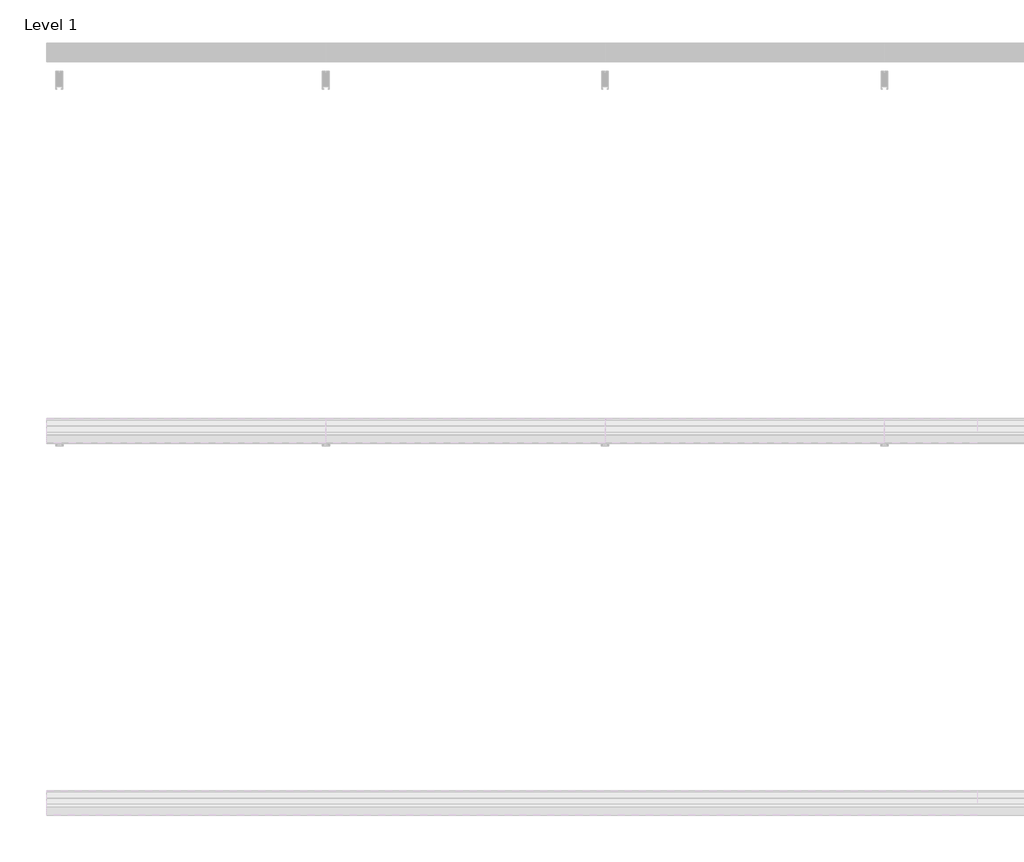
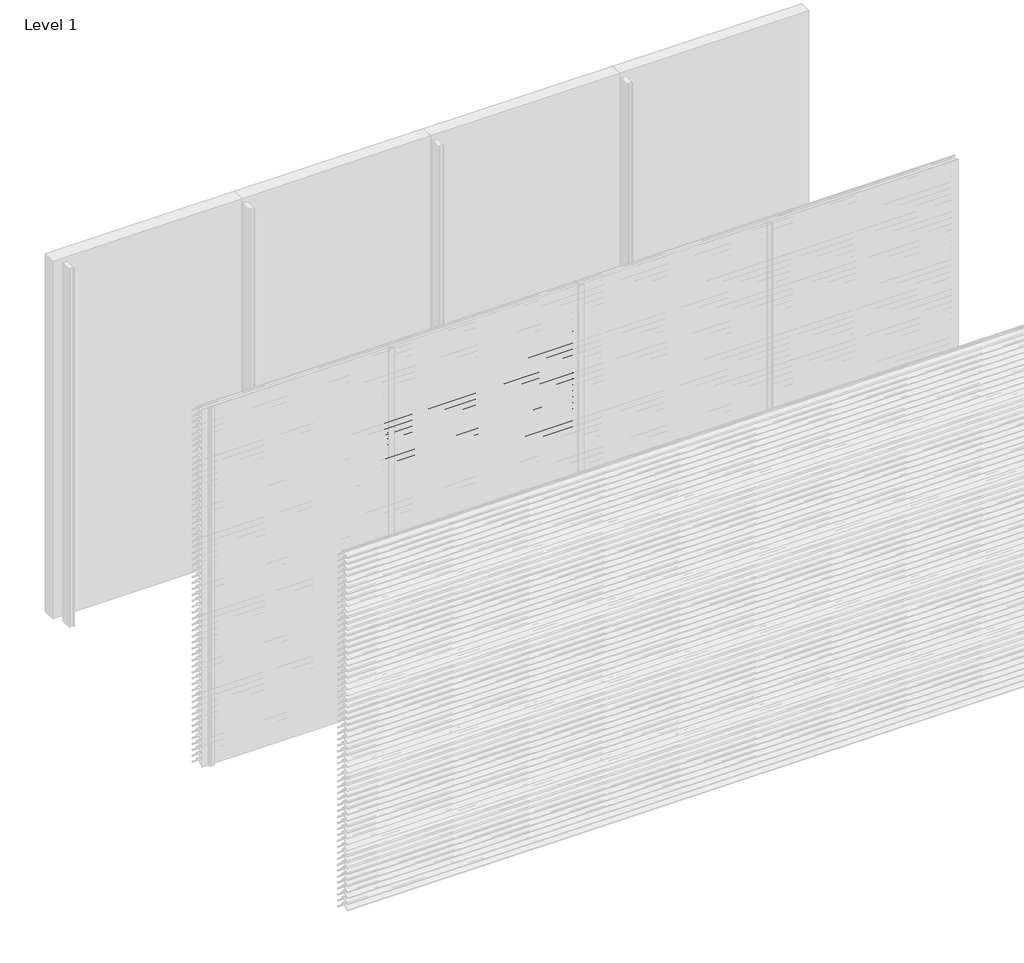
# One storey, part 96 of 173: 17 proxies.
"""IFC4 building model written with IfcOpenShell, lengths in millimetres."""

from ifc_helpers import new_model, si_unit, point, frame, frame_2d, origin, place, context, project, spatial, polyline, circle_curve, trimmed, segment, composite_curve, outline, extrude, element, save

model = new_model("IFC4")

# Units and contexts
model_context = context("Model", 3, world=origin())
ifc_project = project(units=[si_unit("LENGTHUNIT", "METRE", prefix="MILLI")], contexts=[model_context])

# Site, building, storey
site = spatial("IfcSite", under=ifc_project)
building = spatial("IfcBuilding", under=site)
storey = spatial("IfcBuildingStorey", under=building, Name="Level 1", Elevation=0.0)

# Proxies
placement = place(None, origin())
element("IfcBuildingElementProxy", 1, Name="Wall Sweeps", at=placement, inside=storey, context=model_context, shape_type="SweptSolid", body=[
    extrude(outline(composite_curve([segment(polyline([(-23998.0, 2559.1474905), (-23998.0, 2561.6227417)]), True, "CONTINUOUS"), segment(trimmed(circle_curve(frame_2d((-23951.2682172, 2516.2200208)), 65.1557103), [point((-23998.0, 2561.6227417))], [point((-23954.4014323, 2581.3003524))], False, "CARTESIAN"), True, "CONTINUOUS"), segment(polyline([(-23954.4014323, 2581.3003524), (-23934.8315836, 2581.3003524)]), True, "CONTINUOUS"), segment(trimmed(circle_curve(frame_2d((-23732.7329489, 2728.5533172)), 250.0545817), [point((-23934.8315836, 2581.3003524))], [point((-23941.4452143, 2590.8344583))], False, "CARTESIAN"), True, "CONTINUOUS"), segment(trimmed(circle_curve(frame_2d((-23953.2981792, 2585.1737835)), 13.1352966), [point((-23941.4452143, 2590.8344583))], [point((-23953.8171475, 2598.298824))], True, "CARTESIAN"), True, "CONTINUOUS"), segment(polyline([(-23953.8171475, 2598.298824), (-23953.8171475, 2600.0)]), True, "CONTINUOUS"), segment(trimmed(circle_curve(frame_2d((-23953.2981792, 2585.1737835)), 14.8352966), [point((-23953.8171475, 2600.0))], [point((-23939.9637661, 2591.6760487))], False, "CARTESIAN"), True, "CONTINUOUS"), segment(trimmed(circle_curve(frame_2d((-23732.7329489, 2728.5533172)), 248.3545817), [point((-23939.9637661, 2591.6760487))], [point((-23873.8787895, 2524.2059416))], True, "CARTESIAN"), True, "CONTINUOUS"), segment(trimmed(circle_curve(frame_2d((-23883.8147537, 2511.6649442)), 16.0), [point((-23873.8787895, 2524.2059416))], [point((-23867.8648347, 2510.4))], False, "CARTESIAN"), True, "CONTINUOUS"), segment(polyline([(-23867.8648347, 2510.4), (-23869.6712069, 2510.4)]), True, "CONTINUOUS"), segment(trimmed(circle_curve(frame_2d((-23883.8147537, 2511.6649442)), 14.2), [point((-23869.6712069, 2510.4))], [point((-23874.9518628, 2522.7594998))], True, "CARTESIAN"), True, "CONTINUOUS"), segment(trimmed(circle_curve(frame_2d((-23732.7329489, 2728.5533172)), 250.1545817), [point((-23874.9518628, 2522.7594998))], [point((-23933.7064024, 2579.6003524))], False, "CARTESIAN"), True, "CONTINUOUS"), segment(polyline([(-23933.7064024, 2579.6003524), (-23954.3602632, 2579.6003524)]), True, "CONTINUOUS"), segment(trimmed(circle_curve(frame_2d((-23951.2682172, 2516.2200208)), 63.4557103), [point((-23954.3602632, 2579.6003524))], [point((-23998.0, 2559.1474905))], True, "CARTESIAN"), True, "CONTINUOUS")], self_intersect=False)), frame((1500.0, 0.0, 0.0), z_axis=(1.0, 0.0, 0.0), x_axis=(0.0, 1.0, 0.0)), (0.0, 0.0, 1.0), 1500.0),
])
element("IfcBuildingElementProxy", 2, Name="Wall Sweeps", at=placement, inside=storey, context=model_context, shape_type="SweptSolid", body=[
    extrude(outline(composite_curve([segment(polyline([(-23998.0, 2509.1474905), (-23998.0, 2511.6227417)]), True, "CONTINUOUS"), segment(trimmed(circle_curve(frame_2d((-23951.2682172, 2466.2200208)), 65.1557103), [point((-23998.0, 2511.6227417))], [point((-23954.4014323, 2531.3003524))], False, "CARTESIAN"), True, "CONTINUOUS"), segment(polyline([(-23954.4014323, 2531.3003524), (-23934.8315836, 2531.3003524)]), True, "CONTINUOUS"), segment(trimmed(circle_curve(frame_2d((-23732.7329489, 2678.5533172)), 250.0545817), [point((-23934.8315836, 2531.3003524))], [point((-23941.4452143, 2540.8344583))], False, "CARTESIAN"), True, "CONTINUOUS"), segment(trimmed(circle_curve(frame_2d((-23953.2981792, 2535.1737835)), 13.1352966), [point((-23941.4452143, 2540.8344583))], [point((-23953.8171475, 2548.298824))], True, "CARTESIAN"), True, "CONTINUOUS"), segment(polyline([(-23953.8171475, 2548.298824), (-23953.8171475, 2550.0)]), True, "CONTINUOUS"), segment(trimmed(circle_curve(frame_2d((-23953.2981792, 2535.1737835)), 14.8352966), [point((-23953.8171475, 2550.0))], [point((-23939.9637661, 2541.6760487))], False, "CARTESIAN"), True, "CONTINUOUS"), segment(trimmed(circle_curve(frame_2d((-23732.7329489, 2678.5533172)), 248.3545817), [point((-23939.9637661, 2541.6760487))], [point((-23873.8787895, 2474.2059416))], True, "CARTESIAN"), True, "CONTINUOUS"), segment(trimmed(circle_curve(frame_2d((-23883.8147537, 2461.6649442)), 16.0), [point((-23873.8787895, 2474.2059416))], [point((-23867.8648347, 2460.4))], False, "CARTESIAN"), True, "CONTINUOUS"), segment(polyline([(-23867.8648347, 2460.4), (-23869.6712069, 2460.4)]), True, "CONTINUOUS"), segment(trimmed(circle_curve(frame_2d((-23883.8147537, 2461.6649442)), 14.2), [point((-23869.6712069, 2460.4))], [point((-23874.9518628, 2472.7594998))], True, "CARTESIAN"), True, "CONTINUOUS"), segment(trimmed(circle_curve(frame_2d((-23732.7329489, 2678.5533172)), 250.1545817), [point((-23874.9518628, 2472.7594998))], [point((-23933.7064024, 2529.6003524))], False, "CARTESIAN"), True, "CONTINUOUS"), segment(polyline([(-23933.7064024, 2529.6003524), (-23954.3602632, 2529.6003524)]), True, "CONTINUOUS"), segment(trimmed(circle_curve(frame_2d((-23951.2682172, 2466.2200208)), 63.4557103), [point((-23954.3602632, 2529.6003524))], [point((-23998.0, 2509.1474905))], True, "CARTESIAN"), True, "CONTINUOUS")], self_intersect=False)), frame((1500.0, 0.0, 0.0), z_axis=(1.0, 0.0, 0.0), x_axis=(0.0, 1.0, 0.0)), (0.0, 0.0, 1.0), 1500.0),
])
element("IfcBuildingElementProxy", 3, Name="Wall Sweeps", at=placement, inside=storey, context=model_context, shape_type="SweptSolid", body=[
    extrude(outline(composite_curve([segment(polyline([(-23998.0, 2459.1474905), (-23998.0, 2461.6227417)]), True, "CONTINUOUS"), segment(trimmed(circle_curve(frame_2d((-23951.2682172, 2416.2200208)), 65.1557103), [point((-23998.0, 2461.6227417))], [point((-23954.4014323, 2481.3003524))], False, "CARTESIAN"), True, "CONTINUOUS"), segment(polyline([(-23954.4014323, 2481.3003524), (-23934.8315836, 2481.3003524)]), True, "CONTINUOUS"), segment(trimmed(circle_curve(frame_2d((-23732.7329489, 2628.5533172)), 250.0545817), [point((-23934.8315836, 2481.3003524))], [point((-23941.4452143, 2490.8344583))], False, "CARTESIAN"), True, "CONTINUOUS"), segment(trimmed(circle_curve(frame_2d((-23953.2981792, 2485.1737835)), 13.1352966), [point((-23941.4452143, 2490.8344583))], [point((-23953.8171475, 2498.298824))], True, "CARTESIAN"), True, "CONTINUOUS"), segment(polyline([(-23953.8171475, 2498.298824), (-23953.8171475, 2500.0)]), True, "CONTINUOUS"), segment(trimmed(circle_curve(frame_2d((-23953.2981792, 2485.1737835)), 14.8352966), [point((-23953.8171475, 2500.0))], [point((-23939.9637661, 2491.6760487))], False, "CARTESIAN"), True, "CONTINUOUS"), segment(trimmed(circle_curve(frame_2d((-23732.7329489, 2628.5533172)), 248.3545817), [point((-23939.9637661, 2491.6760487))], [point((-23873.8787895, 2424.2059416))], True, "CARTESIAN"), True, "CONTINUOUS"), segment(trimmed(circle_curve(frame_2d((-23883.8147537, 2411.6649442)), 16.0), [point((-23873.8787895, 2424.2059416))], [point((-23867.8648347, 2410.4))], False, "CARTESIAN"), True, "CONTINUOUS"), segment(polyline([(-23867.8648347, 2410.4), (-23869.6712069, 2410.4)]), True, "CONTINUOUS"), segment(trimmed(circle_curve(frame_2d((-23883.8147537, 2411.6649442)), 14.2), [point((-23869.6712069, 2410.4))], [point((-23874.9518628, 2422.7594998))], True, "CARTESIAN"), True, "CONTINUOUS"), segment(trimmed(circle_curve(frame_2d((-23732.7329489, 2628.5533172)), 250.1545817), [point((-23874.9518628, 2422.7594998))], [point((-23933.7064024, 2479.6003524))], False, "CARTESIAN"), True, "CONTINUOUS"), segment(polyline([(-23933.7064024, 2479.6003524), (-23954.3602632, 2479.6003524)]), True, "CONTINUOUS"), segment(trimmed(circle_curve(frame_2d((-23951.2682172, 2416.2200208)), 63.4557103), [point((-23954.3602632, 2479.6003524))], [point((-23998.0, 2459.1474905))], True, "CARTESIAN"), True, "CONTINUOUS")], self_intersect=False)), frame((1500.0, 0.0, 0.0), z_axis=(1.0, 0.0, 0.0), x_axis=(0.0, 1.0, 0.0)), (0.0, 0.0, 1.0), 1500.0),
])
element("IfcBuildingElementProxy", 4, Name="Wall Sweeps", at=placement, inside=storey, context=model_context, shape_type="SweptSolid", body=[
    extrude(outline(composite_curve([segment(polyline([(-23998.0, 2409.1474905), (-23998.0, 2411.6227417)]), True, "CONTINUOUS"), segment(trimmed(circle_curve(frame_2d((-23951.2682172, 2366.2200208)), 65.1557103), [point((-23998.0, 2411.6227417))], [point((-23954.4014323, 2431.3003524))], False, "CARTESIAN"), True, "CONTINUOUS"), segment(polyline([(-23954.4014323, 2431.3003524), (-23934.8315836, 2431.3003524)]), True, "CONTINUOUS"), segment(trimmed(circle_curve(frame_2d((-23732.7329489, 2578.5533172)), 250.0545817), [point((-23934.8315836, 2431.3003524))], [point((-23941.4452143, 2440.8344583))], False, "CARTESIAN"), True, "CONTINUOUS"), segment(trimmed(circle_curve(frame_2d((-23953.2981792, 2435.1737835)), 13.1352966), [point((-23941.4452143, 2440.8344583))], [point((-23953.8171475, 2448.298824))], True, "CARTESIAN"), True, "CONTINUOUS"), segment(polyline([(-23953.8171475, 2448.298824), (-23953.8171475, 2450.0)]), True, "CONTINUOUS"), segment(trimmed(circle_curve(frame_2d((-23953.2981792, 2435.1737835)), 14.8352966), [point((-23953.8171475, 2450.0))], [point((-23939.9637661, 2441.6760487))], False, "CARTESIAN"), True, "CONTINUOUS"), segment(trimmed(circle_curve(frame_2d((-23732.7329489, 2578.5533172)), 248.3545817), [point((-23939.9637661, 2441.6760487))], [point((-23873.8787895, 2374.2059416))], True, "CARTESIAN"), True, "CONTINUOUS"), segment(trimmed(circle_curve(frame_2d((-23883.8147537, 2361.6649442)), 16.0), [point((-23873.8787895, 2374.2059416))], [point((-23867.8648347, 2360.4))], False, "CARTESIAN"), True, "CONTINUOUS"), segment(polyline([(-23867.8648347, 2360.4), (-23869.6712069, 2360.4)]), True, "CONTINUOUS"), segment(trimmed(circle_curve(frame_2d((-23883.8147537, 2361.6649442)), 14.2), [point((-23869.6712069, 2360.4))], [point((-23874.9518628, 2372.7594998))], True, "CARTESIAN"), True, "CONTINUOUS"), segment(trimmed(circle_curve(frame_2d((-23732.7329489, 2578.5533172)), 250.1545817), [point((-23874.9518628, 2372.7594998))], [point((-23933.7064024, 2429.6003524))], False, "CARTESIAN"), True, "CONTINUOUS"), segment(polyline([(-23933.7064024, 2429.6003524), (-23954.3602632, 2429.6003524)]), True, "CONTINUOUS"), segment(trimmed(circle_curve(frame_2d((-23951.2682172, 2366.2200208)), 63.4557103), [point((-23954.3602632, 2429.6003524))], [point((-23998.0, 2409.1474905))], True, "CARTESIAN"), True, "CONTINUOUS")], self_intersect=False)), frame((1500.0, 0.0, 0.0), z_axis=(1.0, 0.0, 0.0), x_axis=(0.0, 1.0, 0.0)), (0.0, 0.0, 1.0), 1500.0),
])
element("IfcBuildingElementProxy", 5, Name="Wall Sweeps", at=placement, inside=storey, context=model_context, shape_type="SweptSolid", body=[
    extrude(outline(composite_curve([segment(polyline([(-23998.0, 2359.1474905), (-23998.0, 2361.6227417)]), True, "CONTINUOUS"), segment(trimmed(circle_curve(frame_2d((-23951.2682172, 2316.2200208)), 65.1557103), [point((-23998.0, 2361.6227417))], [point((-23954.4014323, 2381.3003524))], False, "CARTESIAN"), True, "CONTINUOUS"), segment(polyline([(-23954.4014323, 2381.3003524), (-23934.8315836, 2381.3003524)]), True, "CONTINUOUS"), segment(trimmed(circle_curve(frame_2d((-23732.7329489, 2528.5533172)), 250.0545817), [point((-23934.8315836, 2381.3003524))], [point((-23941.4452143, 2390.8344583))], False, "CARTESIAN"), True, "CONTINUOUS"), segment(trimmed(circle_curve(frame_2d((-23953.2981792, 2385.1737835)), 13.1352966), [point((-23941.4452143, 2390.8344583))], [point((-23953.8171475, 2398.298824))], True, "CARTESIAN"), True, "CONTINUOUS"), segment(polyline([(-23953.8171475, 2398.298824), (-23953.8171475, 2400.0)]), True, "CONTINUOUS"), segment(trimmed(circle_curve(frame_2d((-23953.2981792, 2385.1737835)), 14.8352966), [point((-23953.8171475, 2400.0))], [point((-23939.9637661, 2391.6760487))], False, "CARTESIAN"), True, "CONTINUOUS"), segment(trimmed(circle_curve(frame_2d((-23732.7329489, 2528.5533172)), 248.3545817), [point((-23939.9637661, 2391.6760487))], [point((-23873.8787895, 2324.2059416))], True, "CARTESIAN"), True, "CONTINUOUS"), segment(trimmed(circle_curve(frame_2d((-23883.8147537, 2311.6649442)), 16.0), [point((-23873.8787895, 2324.2059416))], [point((-23867.8648347, 2310.4))], False, "CARTESIAN"), True, "CONTINUOUS"), segment(polyline([(-23867.8648347, 2310.4), (-23869.6712069, 2310.4)]), True, "CONTINUOUS"), segment(trimmed(circle_curve(frame_2d((-23883.8147537, 2311.6649442)), 14.2), [point((-23869.6712069, 2310.4))], [point((-23874.9518628, 2322.7594998))], True, "CARTESIAN"), True, "CONTINUOUS"), segment(trimmed(circle_curve(frame_2d((-23732.7329489, 2528.5533172)), 250.1545817), [point((-23874.9518628, 2322.7594998))], [point((-23933.7064024, 2379.6003524))], False, "CARTESIAN"), True, "CONTINUOUS"), segment(polyline([(-23933.7064024, 2379.6003524), (-23954.3602632, 2379.6003524)]), True, "CONTINUOUS"), segment(trimmed(circle_curve(frame_2d((-23951.2682172, 2316.2200208)), 63.4557103), [point((-23954.3602632, 2379.6003524))], [point((-23998.0, 2359.1474905))], True, "CARTESIAN"), True, "CONTINUOUS")], self_intersect=False)), frame((1500.0, 0.0, 0.0), z_axis=(1.0, 0.0, 0.0), x_axis=(0.0, 1.0, 0.0)), (0.0, 0.0, 1.0), 1500.0),
])
element("IfcBuildingElementProxy", 6, Name="Wall Sweeps", at=placement, inside=storey, context=model_context, shape_type="SweptSolid", body=[
    extrude(outline(composite_curve([segment(polyline([(-23998.0, 2309.1474905), (-23998.0, 2311.6227417)]), True, "CONTINUOUS"), segment(trimmed(circle_curve(frame_2d((-23951.2682172, 2266.2200208)), 65.1557103), [point((-23998.0, 2311.6227417))], [point((-23954.4014323, 2331.3003524))], False, "CARTESIAN"), True, "CONTINUOUS"), segment(polyline([(-23954.4014323, 2331.3003524), (-23934.8315836, 2331.3003524)]), True, "CONTINUOUS"), segment(trimmed(circle_curve(frame_2d((-23732.7329489, 2478.5533172)), 250.0545817), [point((-23934.8315836, 2331.3003524))], [point((-23941.4452143, 2340.8344583))], False, "CARTESIAN"), True, "CONTINUOUS"), segment(trimmed(circle_curve(frame_2d((-23953.2981792, 2335.1737835)), 13.1352966), [point((-23941.4452143, 2340.8344583))], [point((-23953.8171475, 2348.298824))], True, "CARTESIAN"), True, "CONTINUOUS"), segment(polyline([(-23953.8171475, 2348.298824), (-23953.8171475, 2350.0)]), True, "CONTINUOUS"), segment(trimmed(circle_curve(frame_2d((-23953.2981792, 2335.1737835)), 14.8352966), [point((-23953.8171475, 2350.0))], [point((-23939.9637661, 2341.6760487))], False, "CARTESIAN"), True, "CONTINUOUS"), segment(trimmed(circle_curve(frame_2d((-23732.7329489, 2478.5533172)), 248.3545817), [point((-23939.9637661, 2341.6760487))], [point((-23873.8787895, 2274.2059416))], True, "CARTESIAN"), True, "CONTINUOUS"), segment(trimmed(circle_curve(frame_2d((-23883.8147537, 2261.6649442)), 16.0), [point((-23873.8787895, 2274.2059416))], [point((-23867.8648347, 2260.4))], False, "CARTESIAN"), True, "CONTINUOUS"), segment(polyline([(-23867.8648347, 2260.4), (-23869.6712069, 2260.4)]), True, "CONTINUOUS"), segment(trimmed(circle_curve(frame_2d((-23883.8147537, 2261.6649442)), 14.2), [point((-23869.6712069, 2260.4))], [point((-23874.9518628, 2272.7594998))], True, "CARTESIAN"), True, "CONTINUOUS"), segment(trimmed(circle_curve(frame_2d((-23732.7329489, 2478.5533172)), 250.1545817), [point((-23874.9518628, 2272.7594998))], [point((-23933.7064024, 2329.6003524))], False, "CARTESIAN"), True, "CONTINUOUS"), segment(polyline([(-23933.7064024, 2329.6003524), (-23954.3602632, 2329.6003524)]), True, "CONTINUOUS"), segment(trimmed(circle_curve(frame_2d((-23951.2682172, 2266.2200208)), 63.4557103), [point((-23954.3602632, 2329.6003524))], [point((-23998.0, 2309.1474905))], True, "CARTESIAN"), True, "CONTINUOUS")], self_intersect=False)), frame((1500.0, 0.0, 0.0), z_axis=(1.0, 0.0, 0.0), x_axis=(0.0, 1.0, 0.0)), (0.0, 0.0, 1.0), 1500.0),
])
element("IfcBuildingElementProxy", 7, Name="Wall Sweeps", at=placement, inside=storey, context=model_context, shape_type="SweptSolid", body=[
    extrude(outline(composite_curve([segment(polyline([(-23998.0, 2259.1474905), (-23998.0, 2261.6227417)]), True, "CONTINUOUS"), segment(trimmed(circle_curve(frame_2d((-23951.2682172, 2216.2200208)), 65.1557103), [point((-23998.0, 2261.6227417))], [point((-23954.4014323, 2281.3003524))], False, "CARTESIAN"), True, "CONTINUOUS"), segment(polyline([(-23954.4014323, 2281.3003524), (-23934.8315836, 2281.3003524)]), True, "CONTINUOUS"), segment(trimmed(circle_curve(frame_2d((-23732.7329489, 2428.5533172)), 250.0545817), [point((-23934.8315836, 2281.3003524))], [point((-23941.4452143, 2290.8344583))], False, "CARTESIAN"), True, "CONTINUOUS"), segment(trimmed(circle_curve(frame_2d((-23953.2981792, 2285.1737835)), 13.1352966), [point((-23941.4452143, 2290.8344583))], [point((-23953.8171475, 2298.298824))], True, "CARTESIAN"), True, "CONTINUOUS"), segment(polyline([(-23953.8171475, 2298.298824), (-23953.8171475, 2300.0)]), True, "CONTINUOUS"), segment(trimmed(circle_curve(frame_2d((-23953.2981792, 2285.1737835)), 14.8352966), [point((-23953.8171475, 2300.0))], [point((-23939.9637661, 2291.6760487))], False, "CARTESIAN"), True, "CONTINUOUS"), segment(trimmed(circle_curve(frame_2d((-23732.7329489, 2428.5533172)), 248.3545817), [point((-23939.9637661, 2291.6760487))], [point((-23873.8787895, 2224.2059416))], True, "CARTESIAN"), True, "CONTINUOUS"), segment(trimmed(circle_curve(frame_2d((-23883.8147537, 2211.6649442)), 16.0), [point((-23873.8787895, 2224.2059416))], [point((-23867.8648347, 2210.4))], False, "CARTESIAN"), True, "CONTINUOUS"), segment(polyline([(-23867.8648347, 2210.4), (-23869.6712069, 2210.4)]), True, "CONTINUOUS"), segment(trimmed(circle_curve(frame_2d((-23883.8147537, 2211.6649442)), 14.2), [point((-23869.6712069, 2210.4))], [point((-23874.9518628, 2222.7594998))], True, "CARTESIAN"), True, "CONTINUOUS"), segment(trimmed(circle_curve(frame_2d((-23732.7329489, 2428.5533172)), 250.1545817), [point((-23874.9518628, 2222.7594998))], [point((-23933.7064024, 2279.6003524))], False, "CARTESIAN"), True, "CONTINUOUS"), segment(polyline([(-23933.7064024, 2279.6003524), (-23954.3602632, 2279.6003524)]), True, "CONTINUOUS"), segment(trimmed(circle_curve(frame_2d((-23951.2682172, 2216.2200208)), 63.4557103), [point((-23954.3602632, 2279.6003524))], [point((-23998.0, 2259.1474905))], True, "CARTESIAN"), True, "CONTINUOUS")], self_intersect=False)), frame((1500.0, 0.0, 0.0), z_axis=(1.0, 0.0, 0.0), x_axis=(0.0, 1.0, 0.0)), (0.0, 0.0, 1.0), 1500.0),
])
element("IfcBuildingElementProxy", 8, Name="Wall Sweeps", at=placement, inside=storey, context=model_context, shape_type="SweptSolid", body=[
    extrude(outline(composite_curve([segment(polyline([(-23998.0, 2209.1474905), (-23998.0, 2211.6227417)]), True, "CONTINUOUS"), segment(trimmed(circle_curve(frame_2d((-23951.2682172, 2166.2200208)), 65.1557103), [point((-23998.0, 2211.6227417))], [point((-23954.4014323, 2231.3003524))], False, "CARTESIAN"), True, "CONTINUOUS"), segment(polyline([(-23954.4014323, 2231.3003524), (-23934.8315836, 2231.3003524)]), True, "CONTINUOUS"), segment(trimmed(circle_curve(frame_2d((-23732.7329489, 2378.5533172)), 250.0545817), [point((-23934.8315836, 2231.3003524))], [point((-23941.4452143, 2240.8344583))], False, "CARTESIAN"), True, "CONTINUOUS"), segment(trimmed(circle_curve(frame_2d((-23953.2981792, 2235.1737835)), 13.1352966), [point((-23941.4452143, 2240.8344583))], [point((-23953.8171475, 2248.298824))], True, "CARTESIAN"), True, "CONTINUOUS"), segment(polyline([(-23953.8171475, 2248.298824), (-23953.8171475, 2250.0)]), True, "CONTINUOUS"), segment(trimmed(circle_curve(frame_2d((-23953.2981792, 2235.1737835)), 14.8352966), [point((-23953.8171475, 2250.0))], [point((-23939.9637661, 2241.6760487))], False, "CARTESIAN"), True, "CONTINUOUS"), segment(trimmed(circle_curve(frame_2d((-23732.7329489, 2378.5533172)), 248.3545817), [point((-23939.9637661, 2241.6760487))], [point((-23873.8787895, 2174.2059416))], True, "CARTESIAN"), True, "CONTINUOUS"), segment(trimmed(circle_curve(frame_2d((-23883.8147537, 2161.6649442)), 16.0), [point((-23873.8787895, 2174.2059416))], [point((-23867.8648347, 2160.4))], False, "CARTESIAN"), True, "CONTINUOUS"), segment(polyline([(-23867.8648347, 2160.4), (-23869.6712069, 2160.4)]), True, "CONTINUOUS"), segment(trimmed(circle_curve(frame_2d((-23883.8147537, 2161.6649442)), 14.2), [point((-23869.6712069, 2160.4))], [point((-23874.9518628, 2172.7594998))], True, "CARTESIAN"), True, "CONTINUOUS"), segment(trimmed(circle_curve(frame_2d((-23732.7329489, 2378.5533172)), 250.1545817), [point((-23874.9518628, 2172.7594998))], [point((-23933.7064024, 2229.6003524))], False, "CARTESIAN"), True, "CONTINUOUS"), segment(polyline([(-23933.7064024, 2229.6003524), (-23954.3602632, 2229.6003524)]), True, "CONTINUOUS"), segment(trimmed(circle_curve(frame_2d((-23951.2682172, 2166.2200208)), 63.4557103), [point((-23954.3602632, 2229.6003524))], [point((-23998.0, 2209.1474905))], True, "CARTESIAN"), True, "CONTINUOUS")], self_intersect=False)), frame((1500.0, 0.0, 0.0), z_axis=(1.0, 0.0, 0.0), x_axis=(0.0, 1.0, 0.0)), (0.0, 0.0, 1.0), 1500.0),
])
element("IfcBuildingElementProxy", 9, Name="Wall Sweeps", at=placement, inside=storey, context=model_context, shape_type="SweptSolid", body=[
    extrude(outline(composite_curve([segment(polyline([(-23998.0, 2159.1474905), (-23998.0, 2161.6227417)]), True, "CONTINUOUS"), segment(trimmed(circle_curve(frame_2d((-23951.2682172, 2116.2200208)), 65.1557103), [point((-23998.0, 2161.6227417))], [point((-23954.4014323, 2181.3003524))], False, "CARTESIAN"), True, "CONTINUOUS"), segment(polyline([(-23954.4014323, 2181.3003524), (-23934.8315836, 2181.3003524)]), True, "CONTINUOUS"), segment(trimmed(circle_curve(frame_2d((-23732.7329489, 2328.5533172)), 250.0545817), [point((-23934.8315836, 2181.3003524))], [point((-23941.4452143, 2190.8344583))], False, "CARTESIAN"), True, "CONTINUOUS"), segment(trimmed(circle_curve(frame_2d((-23953.2981792, 2185.1737835)), 13.1352966), [point((-23941.4452143, 2190.8344583))], [point((-23953.8171475, 2198.298824))], True, "CARTESIAN"), True, "CONTINUOUS"), segment(polyline([(-23953.8171475, 2198.298824), (-23953.8171475, 2200.0)]), True, "CONTINUOUS"), segment(trimmed(circle_curve(frame_2d((-23953.2981792, 2185.1737835)), 14.8352966), [point((-23953.8171475, 2200.0))], [point((-23939.9637661, 2191.6760487))], False, "CARTESIAN"), True, "CONTINUOUS"), segment(trimmed(circle_curve(frame_2d((-23732.7329489, 2328.5533172)), 248.3545817), [point((-23939.9637661, 2191.6760487))], [point((-23873.8787895, 2124.2059416))], True, "CARTESIAN"), True, "CONTINUOUS"), segment(trimmed(circle_curve(frame_2d((-23883.8147537, 2111.6649442)), 16.0), [point((-23873.8787895, 2124.2059416))], [point((-23867.8648347, 2110.4))], False, "CARTESIAN"), True, "CONTINUOUS"), segment(polyline([(-23867.8648347, 2110.4), (-23869.6712069, 2110.4)]), True, "CONTINUOUS"), segment(trimmed(circle_curve(frame_2d((-23883.8147537, 2111.6649442)), 14.2), [point((-23869.6712069, 2110.4))], [point((-23874.9518628, 2122.7594998))], True, "CARTESIAN"), True, "CONTINUOUS"), segment(trimmed(circle_curve(frame_2d((-23732.7329489, 2328.5533172)), 250.1545817), [point((-23874.9518628, 2122.7594998))], [point((-23933.7064024, 2179.6003524))], False, "CARTESIAN"), True, "CONTINUOUS"), segment(polyline([(-23933.7064024, 2179.6003524), (-23954.3602632, 2179.6003524)]), True, "CONTINUOUS"), segment(trimmed(circle_curve(frame_2d((-23951.2682172, 2116.2200208)), 63.4557103), [point((-23954.3602632, 2179.6003524))], [point((-23998.0, 2159.1474905))], True, "CARTESIAN"), True, "CONTINUOUS")], self_intersect=False)), frame((1500.0, 0.0, 0.0), z_axis=(1.0, 0.0, 0.0), x_axis=(0.0, 1.0, 0.0)), (0.0, 0.0, 1.0), 1500.0),
])
element("IfcBuildingElementProxy", 10, Name="Wall Sweeps", at=placement, inside=storey, context=model_context, shape_type="SweptSolid", body=[
    extrude(outline(composite_curve([segment(polyline([(-23998.0, 2109.1474905), (-23998.0, 2111.6227417)]), True, "CONTINUOUS"), segment(trimmed(circle_curve(frame_2d((-23951.2682172, 2066.2200208)), 65.1557103), [point((-23998.0, 2111.6227417))], [point((-23954.4014323, 2131.3003524))], False, "CARTESIAN"), True, "CONTINUOUS"), segment(polyline([(-23954.4014323, 2131.3003524), (-23934.8315836, 2131.3003524)]), True, "CONTINUOUS"), segment(trimmed(circle_curve(frame_2d((-23732.7329489, 2278.5533172)), 250.0545817), [point((-23934.8315836, 2131.3003524))], [point((-23941.4452143, 2140.8344583))], False, "CARTESIAN"), True, "CONTINUOUS"), segment(trimmed(circle_curve(frame_2d((-23953.2981792, 2135.1737835)), 13.1352966), [point((-23941.4452143, 2140.8344583))], [point((-23953.8171475, 2148.298824))], True, "CARTESIAN"), True, "CONTINUOUS"), segment(polyline([(-23953.8171475, 2148.298824), (-23953.8171475, 2150.0)]), True, "CONTINUOUS"), segment(trimmed(circle_curve(frame_2d((-23953.2981792, 2135.1737835)), 14.8352966), [point((-23953.8171475, 2150.0))], [point((-23939.9637661, 2141.6760487))], False, "CARTESIAN"), True, "CONTINUOUS"), segment(trimmed(circle_curve(frame_2d((-23732.7329489, 2278.5533172)), 248.3545817), [point((-23939.9637661, 2141.6760487))], [point((-23873.8787895, 2074.2059416))], True, "CARTESIAN"), True, "CONTINUOUS"), segment(trimmed(circle_curve(frame_2d((-23883.8147537, 2061.6649442)), 16.0), [point((-23873.8787895, 2074.2059416))], [point((-23867.8648347, 2060.4))], False, "CARTESIAN"), True, "CONTINUOUS"), segment(polyline([(-23867.8648347, 2060.4), (-23869.6712069, 2060.4)]), True, "CONTINUOUS"), segment(trimmed(circle_curve(frame_2d((-23883.8147537, 2061.6649442)), 14.2), [point((-23869.6712069, 2060.4))], [point((-23874.9518628, 2072.7594998))], True, "CARTESIAN"), True, "CONTINUOUS"), segment(trimmed(circle_curve(frame_2d((-23732.7329489, 2278.5533172)), 250.1545817), [point((-23874.9518628, 2072.7594998))], [point((-23933.7064024, 2129.6003524))], False, "CARTESIAN"), True, "CONTINUOUS"), segment(polyline([(-23933.7064024, 2129.6003524), (-23954.3602632, 2129.6003524)]), True, "CONTINUOUS"), segment(trimmed(circle_curve(frame_2d((-23951.2682172, 2066.2200208)), 63.4557103), [point((-23954.3602632, 2129.6003524))], [point((-23998.0, 2109.1474905))], True, "CARTESIAN"), True, "CONTINUOUS")], self_intersect=False)), frame((1500.0, 0.0, 0.0), z_axis=(1.0, 0.0, 0.0), x_axis=(0.0, 1.0, 0.0)), (0.0, 0.0, 1.0), 1500.0),
])
element("IfcBuildingElementProxy", 11, Name="Wall Sweeps", at=placement, inside=storey, context=model_context, shape_type="SweptSolid", body=[
    extrude(outline(composite_curve([segment(polyline([(-23998.0, 2059.1474905), (-23998.0, 2061.6227417)]), True, "CONTINUOUS"), segment(trimmed(circle_curve(frame_2d((-23951.2682172, 2016.2200208)), 65.1557103), [point((-23998.0, 2061.6227417))], [point((-23954.4014323, 2081.3003524))], False, "CARTESIAN"), True, "CONTINUOUS"), segment(polyline([(-23954.4014323, 2081.3003524), (-23934.8315836, 2081.3003524)]), True, "CONTINUOUS"), segment(trimmed(circle_curve(frame_2d((-23732.7329489, 2228.5533172)), 250.0545817), [point((-23934.8315836, 2081.3003524))], [point((-23941.4452143, 2090.8344583))], False, "CARTESIAN"), True, "CONTINUOUS"), segment(trimmed(circle_curve(frame_2d((-23953.2981792, 2085.1737835)), 13.1352966), [point((-23941.4452143, 2090.8344583))], [point((-23953.8171475, 2098.298824))], True, "CARTESIAN"), True, "CONTINUOUS"), segment(polyline([(-23953.8171475, 2098.298824), (-23953.8171475, 2100.0)]), True, "CONTINUOUS"), segment(trimmed(circle_curve(frame_2d((-23953.2981792, 2085.1737835)), 14.8352966), [point((-23953.8171475, 2100.0))], [point((-23939.9637661, 2091.6760487))], False, "CARTESIAN"), True, "CONTINUOUS"), segment(trimmed(circle_curve(frame_2d((-23732.7329489, 2228.5533172)), 248.3545817), [point((-23939.9637661, 2091.6760487))], [point((-23873.8787895, 2024.2059416))], True, "CARTESIAN"), True, "CONTINUOUS"), segment(trimmed(circle_curve(frame_2d((-23883.8147537, 2011.6649442)), 16.0), [point((-23873.8787895, 2024.2059416))], [point((-23867.8648347, 2010.4))], False, "CARTESIAN"), True, "CONTINUOUS"), segment(polyline([(-23867.8648347, 2010.4), (-23869.6712069, 2010.4)]), True, "CONTINUOUS"), segment(trimmed(circle_curve(frame_2d((-23883.8147537, 2011.6649442)), 14.2), [point((-23869.6712069, 2010.4))], [point((-23874.9518628, 2022.7594998))], True, "CARTESIAN"), True, "CONTINUOUS"), segment(trimmed(circle_curve(frame_2d((-23732.7329489, 2228.5533172)), 250.1545817), [point((-23874.9518628, 2022.7594998))], [point((-23933.7064024, 2079.6003524))], False, "CARTESIAN"), True, "CONTINUOUS"), segment(polyline([(-23933.7064024, 2079.6003524), (-23954.3602632, 2079.6003524)]), True, "CONTINUOUS"), segment(trimmed(circle_curve(frame_2d((-23951.2682172, 2016.2200208)), 63.4557103), [point((-23954.3602632, 2079.6003524))], [point((-23998.0, 2059.1474905))], True, "CARTESIAN"), True, "CONTINUOUS")], self_intersect=False)), frame((1500.0, 0.0, 0.0), z_axis=(1.0, 0.0, 0.0), x_axis=(0.0, 1.0, 0.0)), (0.0, 0.0, 1.0), 1500.0),
])
element("IfcBuildingElementProxy", 12, Name="Wall Sweeps", at=placement, inside=storey, context=model_context, shape_type="SweptSolid", body=[
    extrude(outline(composite_curve([segment(polyline([(-23998.0, 2009.1474905), (-23998.0, 2011.6227417)]), True, "CONTINUOUS"), segment(trimmed(circle_curve(frame_2d((-23951.2682172, 1966.2200208)), 65.1557103), [point((-23998.0, 2011.6227417))], [point((-23954.4014323, 2031.3003524))], False, "CARTESIAN"), True, "CONTINUOUS"), segment(polyline([(-23954.4014323, 2031.3003524), (-23934.8315836, 2031.3003524)]), True, "CONTINUOUS"), segment(trimmed(circle_curve(frame_2d((-23732.7329489, 2178.5533172)), 250.0545817), [point((-23934.8315836, 2031.3003524))], [point((-23941.4452143, 2040.8344583))], False, "CARTESIAN"), True, "CONTINUOUS"), segment(trimmed(circle_curve(frame_2d((-23953.2981792, 2035.1737835)), 13.1352966), [point((-23941.4452143, 2040.8344583))], [point((-23953.8171475, 2048.298824))], True, "CARTESIAN"), True, "CONTINUOUS"), segment(polyline([(-23953.8171475, 2048.298824), (-23953.8171475, 2050.0)]), True, "CONTINUOUS"), segment(trimmed(circle_curve(frame_2d((-23953.2981792, 2035.1737835)), 14.8352966), [point((-23953.8171475, 2050.0))], [point((-23939.9637661, 2041.6760487))], False, "CARTESIAN"), True, "CONTINUOUS"), segment(trimmed(circle_curve(frame_2d((-23732.7329489, 2178.5533172)), 248.3545817), [point((-23939.9637661, 2041.6760487))], [point((-23873.8787895, 1974.2059416))], True, "CARTESIAN"), True, "CONTINUOUS"), segment(trimmed(circle_curve(frame_2d((-23883.8147537, 1961.6649442)), 16.0), [point((-23873.8787895, 1974.2059416))], [point((-23867.8648347, 1960.4))], False, "CARTESIAN"), True, "CONTINUOUS"), segment(polyline([(-23867.8648347, 1960.4), (-23869.6712069, 1960.4)]), True, "CONTINUOUS"), segment(trimmed(circle_curve(frame_2d((-23883.8147537, 1961.6649442)), 14.2), [point((-23869.6712069, 1960.4))], [point((-23874.9518628, 1972.7594998))], True, "CARTESIAN"), True, "CONTINUOUS"), segment(trimmed(circle_curve(frame_2d((-23732.7329489, 2178.5533172)), 250.1545817), [point((-23874.9518628, 1972.7594998))], [point((-23933.7064024, 2029.6003524))], False, "CARTESIAN"), True, "CONTINUOUS"), segment(polyline([(-23933.7064024, 2029.6003524), (-23954.3602632, 2029.6003524)]), True, "CONTINUOUS"), segment(trimmed(circle_curve(frame_2d((-23951.2682172, 1966.2200208)), 63.4557103), [point((-23954.3602632, 2029.6003524))], [point((-23998.0, 2009.1474905))], True, "CARTESIAN"), True, "CONTINUOUS")], self_intersect=False)), frame((1500.0, 0.0, 0.0), z_axis=(1.0, 0.0, 0.0), x_axis=(0.0, 1.0, 0.0)), (0.0, 0.0, 1.0), 1500.0),
])
element("IfcBuildingElementProxy", 13, Name="Wall Sweeps", at=placement, inside=storey, context=model_context, shape_type="SweptSolid", body=[
    extrude(outline(composite_curve([segment(polyline([(-23998.0, 1959.1474905), (-23998.0, 1961.6227417)]), True, "CONTINUOUS"), segment(trimmed(circle_curve(frame_2d((-23951.2682172, 1916.2200208)), 65.1557103), [point((-23998.0, 1961.6227417))], [point((-23954.4014323, 1981.3003524))], False, "CARTESIAN"), True, "CONTINUOUS"), segment(polyline([(-23954.4014323, 1981.3003524), (-23934.8315836, 1981.3003524)]), True, "CONTINUOUS"), segment(trimmed(circle_curve(frame_2d((-23732.7329489, 2128.5533172)), 250.0545817), [point((-23934.8315836, 1981.3003524))], [point((-23941.4452143, 1990.8344583))], False, "CARTESIAN"), True, "CONTINUOUS"), segment(trimmed(circle_curve(frame_2d((-23953.2981792, 1985.1737835)), 13.1352966), [point((-23941.4452143, 1990.8344583))], [point((-23953.8171475, 1998.298824))], True, "CARTESIAN"), True, "CONTINUOUS"), segment(polyline([(-23953.8171475, 1998.298824), (-23953.8171475, 2000.0)]), True, "CONTINUOUS"), segment(trimmed(circle_curve(frame_2d((-23953.2981792, 1985.1737835)), 14.8352966), [point((-23953.8171475, 2000.0))], [point((-23939.9637661, 1991.6760487))], False, "CARTESIAN"), True, "CONTINUOUS"), segment(trimmed(circle_curve(frame_2d((-23732.7329489, 2128.5533172)), 248.3545817), [point((-23939.9637661, 1991.6760487))], [point((-23873.8787895, 1924.2059416))], True, "CARTESIAN"), True, "CONTINUOUS"), segment(trimmed(circle_curve(frame_2d((-23883.8147537, 1911.6649442)), 16.0), [point((-23873.8787895, 1924.2059416))], [point((-23867.8648347, 1910.4))], False, "CARTESIAN"), True, "CONTINUOUS"), segment(polyline([(-23867.8648347, 1910.4), (-23869.6712069, 1910.4)]), True, "CONTINUOUS"), segment(trimmed(circle_curve(frame_2d((-23883.8147537, 1911.6649442)), 14.2), [point((-23869.6712069, 1910.4))], [point((-23874.9518628, 1922.7594998))], True, "CARTESIAN"), True, "CONTINUOUS"), segment(trimmed(circle_curve(frame_2d((-23732.7329489, 2128.5533172)), 250.1545817), [point((-23874.9518628, 1922.7594998))], [point((-23933.7064024, 1979.6003524))], False, "CARTESIAN"), True, "CONTINUOUS"), segment(polyline([(-23933.7064024, 1979.6003524), (-23954.3602632, 1979.6003524)]), True, "CONTINUOUS"), segment(trimmed(circle_curve(frame_2d((-23951.2682172, 1916.2200208)), 63.4557103), [point((-23954.3602632, 1979.6003524))], [point((-23998.0, 1959.1474905))], True, "CARTESIAN"), True, "CONTINUOUS")], self_intersect=False)), frame((1500.0, 0.0, 0.0), z_axis=(1.0, 0.0, 0.0), x_axis=(0.0, 1.0, 0.0)), (0.0, 0.0, 1.0), 1500.0),
])
element("IfcBuildingElementProxy", 14, Name="Wall Sweeps", at=placement, inside=storey, context=model_context, shape_type="SweptSolid", body=[
    extrude(outline(composite_curve([segment(polyline([(-23998.0, 1909.1474905), (-23998.0, 1911.6227417)]), True, "CONTINUOUS"), segment(trimmed(circle_curve(frame_2d((-23951.2682172, 1866.2200208)), 65.1557103), [point((-23998.0, 1911.6227417))], [point((-23954.4014323, 1931.3003524))], False, "CARTESIAN"), True, "CONTINUOUS"), segment(polyline([(-23954.4014323, 1931.3003524), (-23934.8315836, 1931.3003524)]), True, "CONTINUOUS"), segment(trimmed(circle_curve(frame_2d((-23732.7329489, 2078.5533172)), 250.0545817), [point((-23934.8315836, 1931.3003524))], [point((-23941.4452143, 1940.8344583))], False, "CARTESIAN"), True, "CONTINUOUS"), segment(trimmed(circle_curve(frame_2d((-23953.2981792, 1935.1737835)), 13.1352966), [point((-23941.4452143, 1940.8344583))], [point((-23953.8171475, 1948.298824))], True, "CARTESIAN"), True, "CONTINUOUS"), segment(polyline([(-23953.8171475, 1948.298824), (-23953.8171475, 1950.0)]), True, "CONTINUOUS"), segment(trimmed(circle_curve(frame_2d((-23953.2981792, 1935.1737835)), 14.8352966), [point((-23953.8171475, 1950.0))], [point((-23939.9637661, 1941.6760487))], False, "CARTESIAN"), True, "CONTINUOUS"), segment(trimmed(circle_curve(frame_2d((-23732.7329489, 2078.5533172)), 248.3545817), [point((-23939.9637661, 1941.6760487))], [point((-23873.8787895, 1874.2059416))], True, "CARTESIAN"), True, "CONTINUOUS"), segment(trimmed(circle_curve(frame_2d((-23883.8147537, 1861.6649442)), 16.0), [point((-23873.8787895, 1874.2059416))], [point((-23867.8648347, 1860.4))], False, "CARTESIAN"), True, "CONTINUOUS"), segment(polyline([(-23867.8648347, 1860.4), (-23869.6712069, 1860.4)]), True, "CONTINUOUS"), segment(trimmed(circle_curve(frame_2d((-23883.8147537, 1861.6649442)), 14.2), [point((-23869.6712069, 1860.4))], [point((-23874.9518628, 1872.7594998))], True, "CARTESIAN"), True, "CONTINUOUS"), segment(trimmed(circle_curve(frame_2d((-23732.7329489, 2078.5533172)), 250.1545817), [point((-23874.9518628, 1872.7594998))], [point((-23933.7064024, 1929.6003524))], False, "CARTESIAN"), True, "CONTINUOUS"), segment(polyline([(-23933.7064024, 1929.6003524), (-23954.3602632, 1929.6003524)]), True, "CONTINUOUS"), segment(trimmed(circle_curve(frame_2d((-23951.2682172, 1866.2200208)), 63.4557103), [point((-23954.3602632, 1929.6003524))], [point((-23998.0, 1909.1474905))], True, "CARTESIAN"), True, "CONTINUOUS")], self_intersect=False)), frame((1500.0, 0.0, 0.0), z_axis=(1.0, 0.0, 0.0), x_axis=(0.0, 1.0, 0.0)), (0.0, 0.0, 1.0), 1500.0),
])
element("IfcBuildingElementProxy", 15, Name="Wall Sweeps", at=placement, inside=storey, context=model_context, shape_type="SweptSolid", body=[
    extrude(outline(composite_curve([segment(polyline([(-23998.0, 1859.1474905), (-23998.0, 1861.6227417)]), True, "CONTINUOUS"), segment(trimmed(circle_curve(frame_2d((-23951.2682172, 1816.2200208)), 65.1557103), [point((-23998.0, 1861.6227417))], [point((-23954.4014323, 1881.3003524))], False, "CARTESIAN"), True, "CONTINUOUS"), segment(polyline([(-23954.4014323, 1881.3003524), (-23934.8315836, 1881.3003524)]), True, "CONTINUOUS"), segment(trimmed(circle_curve(frame_2d((-23732.7329489, 2028.5533172)), 250.0545817), [point((-23934.8315836, 1881.3003524))], [point((-23941.4452143, 1890.8344583))], False, "CARTESIAN"), True, "CONTINUOUS"), segment(trimmed(circle_curve(frame_2d((-23953.2981792, 1885.1737835)), 13.1352966), [point((-23941.4452143, 1890.8344583))], [point((-23953.8171475, 1898.298824))], True, "CARTESIAN"), True, "CONTINUOUS"), segment(polyline([(-23953.8171475, 1898.298824), (-23953.8171475, 1900.0)]), True, "CONTINUOUS"), segment(trimmed(circle_curve(frame_2d((-23953.2981792, 1885.1737835)), 14.8352966), [point((-23953.8171475, 1900.0))], [point((-23939.9637661, 1891.6760487))], False, "CARTESIAN"), True, "CONTINUOUS"), segment(trimmed(circle_curve(frame_2d((-23732.7329489, 2028.5533172)), 248.3545817), [point((-23939.9637661, 1891.6760487))], [point((-23873.8787895, 1824.2059416))], True, "CARTESIAN"), True, "CONTINUOUS"), segment(trimmed(circle_curve(frame_2d((-23883.8147537, 1811.6649442)), 16.0), [point((-23873.8787895, 1824.2059416))], [point((-23867.8648347, 1810.4))], False, "CARTESIAN"), True, "CONTINUOUS"), segment(polyline([(-23867.8648347, 1810.4), (-23869.6712069, 1810.4)]), True, "CONTINUOUS"), segment(trimmed(circle_curve(frame_2d((-23883.8147537, 1811.6649442)), 14.2), [point((-23869.6712069, 1810.4))], [point((-23874.9518628, 1822.7594998))], True, "CARTESIAN"), True, "CONTINUOUS"), segment(trimmed(circle_curve(frame_2d((-23732.7329489, 2028.5533172)), 250.1545817), [point((-23874.9518628, 1822.7594998))], [point((-23933.7064024, 1879.6003524))], False, "CARTESIAN"), True, "CONTINUOUS"), segment(polyline([(-23933.7064024, 1879.6003524), (-23954.3602632, 1879.6003524)]), True, "CONTINUOUS"), segment(trimmed(circle_curve(frame_2d((-23951.2682172, 1816.2200208)), 63.4557103), [point((-23954.3602632, 1879.6003524))], [point((-23998.0, 1859.1474905))], True, "CARTESIAN"), True, "CONTINUOUS")], self_intersect=False)), frame((1500.0, 0.0, 0.0), z_axis=(1.0, 0.0, 0.0), x_axis=(0.0, 1.0, 0.0)), (0.0, 0.0, 1.0), 1500.0),
])
element("IfcBuildingElementProxy", 16, Name="Wall Sweeps", at=placement, inside=storey, context=model_context, shape_type="SweptSolid", body=[
    extrude(outline(composite_curve([segment(polyline([(-23998.0, 1809.1474905), (-23998.0, 1811.6227417)]), True, "CONTINUOUS"), segment(trimmed(circle_curve(frame_2d((-23951.2682172, 1766.2200208)), 65.1557103), [point((-23998.0, 1811.6227417))], [point((-23954.4014323, 1831.3003524))], False, "CARTESIAN"), True, "CONTINUOUS"), segment(polyline([(-23954.4014323, 1831.3003524), (-23934.8315836, 1831.3003524)]), True, "CONTINUOUS"), segment(trimmed(circle_curve(frame_2d((-23732.7329489, 1978.5533172)), 250.0545817), [point((-23934.8315836, 1831.3003524))], [point((-23941.4452143, 1840.8344583))], False, "CARTESIAN"), True, "CONTINUOUS"), segment(trimmed(circle_curve(frame_2d((-23953.2981792, 1835.1737835)), 13.1352966), [point((-23941.4452143, 1840.8344583))], [point((-23953.8171475, 1848.298824))], True, "CARTESIAN"), True, "CONTINUOUS"), segment(polyline([(-23953.8171475, 1848.298824), (-23953.8171475, 1850.0)]), True, "CONTINUOUS"), segment(trimmed(circle_curve(frame_2d((-23953.2981792, 1835.1737835)), 14.8352966), [point((-23953.8171475, 1850.0))], [point((-23939.9637661, 1841.6760487))], False, "CARTESIAN"), True, "CONTINUOUS"), segment(trimmed(circle_curve(frame_2d((-23732.7329489, 1978.5533172)), 248.3545817), [point((-23939.9637661, 1841.6760487))], [point((-23873.8787895, 1774.2059416))], True, "CARTESIAN"), True, "CONTINUOUS"), segment(trimmed(circle_curve(frame_2d((-23883.8147537, 1761.6649442)), 16.0), [point((-23873.8787895, 1774.2059416))], [point((-23867.8648347, 1760.4))], False, "CARTESIAN"), True, "CONTINUOUS"), segment(polyline([(-23867.8648347, 1760.4), (-23869.6712069, 1760.4)]), True, "CONTINUOUS"), segment(trimmed(circle_curve(frame_2d((-23883.8147537, 1761.6649442)), 14.2), [point((-23869.6712069, 1760.4))], [point((-23874.9518628, 1772.7594998))], True, "CARTESIAN"), True, "CONTINUOUS"), segment(trimmed(circle_curve(frame_2d((-23732.7329489, 1978.5533172)), 250.1545817), [point((-23874.9518628, 1772.7594998))], [point((-23933.7064024, 1829.6003524))], False, "CARTESIAN"), True, "CONTINUOUS"), segment(polyline([(-23933.7064024, 1829.6003524), (-23954.3602632, 1829.6003524)]), True, "CONTINUOUS"), segment(trimmed(circle_curve(frame_2d((-23951.2682172, 1766.2200208)), 63.4557103), [point((-23954.3602632, 1829.6003524))], [point((-23998.0, 1809.1474905))], True, "CARTESIAN"), True, "CONTINUOUS")], self_intersect=False)), frame((1500.0, 0.0, 0.0), z_axis=(1.0, 0.0, 0.0), x_axis=(0.0, 1.0, 0.0)), (0.0, 0.0, 1.0), 1500.0),
])
element("IfcBuildingElementProxy", 17, Name="Wall Sweeps", at=placement, inside=storey, context=model_context, shape_type="SweptSolid", body=[
    extrude(outline(composite_curve([segment(polyline([(-23998.0, 1759.1474905), (-23998.0, 1761.6227417)]), True, "CONTINUOUS"), segment(trimmed(circle_curve(frame_2d((-23951.2682172, 1716.2200208)), 65.1557103), [point((-23998.0, 1761.6227417))], [point((-23954.4014323, 1781.3003524))], False, "CARTESIAN"), True, "CONTINUOUS"), segment(polyline([(-23954.4014323, 1781.3003524), (-23934.8315836, 1781.3003524)]), True, "CONTINUOUS"), segment(trimmed(circle_curve(frame_2d((-23732.7329489, 1928.5533172)), 250.0545817), [point((-23934.8315836, 1781.3003524))], [point((-23941.4452143, 1790.8344583))], False, "CARTESIAN"), True, "CONTINUOUS"), segment(trimmed(circle_curve(frame_2d((-23953.2981792, 1785.1737835)), 13.1352966), [point((-23941.4452143, 1790.8344583))], [point((-23953.8171475, 1798.298824))], True, "CARTESIAN"), True, "CONTINUOUS"), segment(polyline([(-23953.8171475, 1798.298824), (-23953.8171475, 1800.0)]), True, "CONTINUOUS"), segment(trimmed(circle_curve(frame_2d((-23953.2981792, 1785.1737835)), 14.8352966), [point((-23953.8171475, 1800.0))], [point((-23939.9637661, 1791.6760487))], False, "CARTESIAN"), True, "CONTINUOUS"), segment(trimmed(circle_curve(frame_2d((-23732.7329489, 1928.5533172)), 248.3545817), [point((-23939.9637661, 1791.6760487))], [point((-23873.8787895, 1724.2059416))], True, "CARTESIAN"), True, "CONTINUOUS"), segment(trimmed(circle_curve(frame_2d((-23883.8147537, 1711.6649442)), 16.0), [point((-23873.8787895, 1724.2059416))], [point((-23867.8648347, 1710.4))], False, "CARTESIAN"), True, "CONTINUOUS"), segment(polyline([(-23867.8648347, 1710.4), (-23869.6712069, 1710.4)]), True, "CONTINUOUS"), segment(trimmed(circle_curve(frame_2d((-23883.8147537, 1711.6649442)), 14.2), [point((-23869.6712069, 1710.4))], [point((-23874.9518628, 1722.7594998))], True, "CARTESIAN"), True, "CONTINUOUS"), segment(trimmed(circle_curve(frame_2d((-23732.7329489, 1928.5533172)), 250.1545817), [point((-23874.9518628, 1722.7594998))], [point((-23933.7064024, 1779.6003524))], False, "CARTESIAN"), True, "CONTINUOUS"), segment(polyline([(-23933.7064024, 1779.6003524), (-23954.3602632, 1779.6003524)]), True, "CONTINUOUS"), segment(trimmed(circle_curve(frame_2d((-23951.2682172, 1716.2200208)), 63.4557103), [point((-23954.3602632, 1779.6003524))], [point((-23998.0, 1759.1474905))], True, "CARTESIAN"), True, "CONTINUOUS")], self_intersect=False)), frame((1500.0, 0.0, 0.0), z_axis=(1.0, 0.0, 0.0), x_axis=(0.0, 1.0, 0.0)), (0.0, 0.0, 1.0), 1500.0),
])

save(model, "model.ifc")
